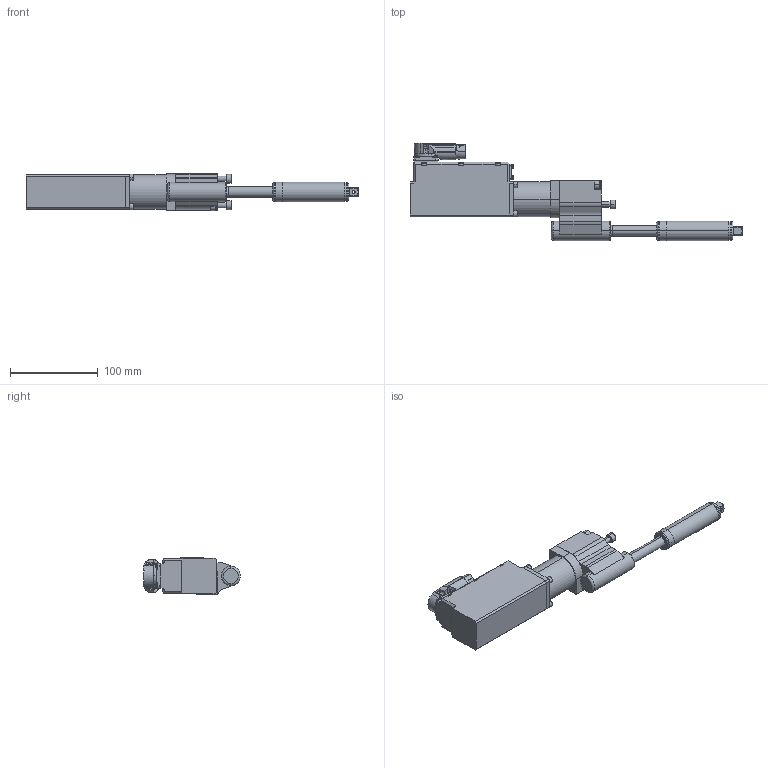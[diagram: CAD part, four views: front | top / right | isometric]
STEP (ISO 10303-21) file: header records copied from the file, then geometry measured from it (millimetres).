
FILE_DESCRIPTION (( 'STEP AP214' ), '1' );
FILE_NAME ('70121607_KSX1025OF50.STEP', '2020-01-15T13:28:54', ( 'admin' ), ( '' ), 'SwSTEP 2.0', 'SolidWorks 2017', '' );
FILE_SCHEMA (( 'AUTOMOTIVE_DESIGN' ));
Length unit declared in the file: millimetre
Products named in the file (10): 70111180; 70111180_2; 70111000; 70121607_KSX1025OF50; 7002230_3; 70111045; 70111006; 70111011; 70111000_KSX1_Stecker_vorne; 70111180_Pos_vorne
Assembly tree (9 placements, depth 4):
  70121607_KSX1025OF50
    70111000_KSX1_Stecker_vorne
      70111000
      70111180_Pos_vorne
        70111180_2
        70111180
    70111011
    70111006
    70111045
    7002230_3
Bounding box: 377.7 x 110.39 x 42.53 mm (x, y, z)
Volume: 519127.8 mm3; surface area: 101726.3 mm2
Topology: 11 solids, 13 shells, 1912 faces, 4881 edges, 3081 vertices
Faces by surface type: cylinder 767, plane 619, cone 316, torus 119, sphere 48, bspline 43
Entity records: 69500 total; most frequent: CARTESIAN_POINT 16499, ORIENTED_EDGE 9622, DIRECTION 9259, EDGE_CURVE 4811, AXIS2_PLACEMENT_3D 3686, VERTEX_POINT 3081, EDGE_LOOP 2092, ADVANCED_FACE 1912
